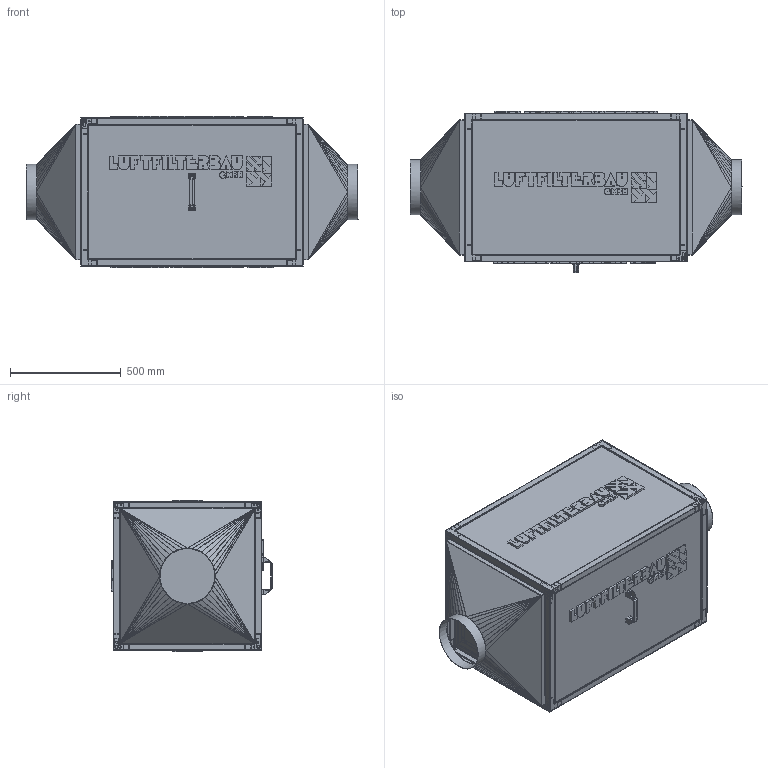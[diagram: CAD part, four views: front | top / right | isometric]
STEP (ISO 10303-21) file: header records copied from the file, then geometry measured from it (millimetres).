
FILE_DESCRIPTION(/* description */ (''),/* implementation_level */ '2;1');
FILE_NAME(/* name */ '\\hs-2000\Benutzer\00 Konstruktion\10_Inventor_Modelle\Inventor\HS-Vario Cat\72-VARIO-CAT-0000163\72-VARIO-CAT-0000163.stp',/* time_stamp */ '2018-08-07T11:37:56+02:00',/* author */ ('ap29'),/* organization */ (''),/* preprocessor_version */ 'ST-DEVELOPER v16.5',/* originating_system */ 'Autodesk Inventor 2017',/* authorisation */ '');
FILE_SCHEMA (('AUTOMOTIVE_DESIGN { 1 0 10303 214 3 1 1 }'));
Products named in the file (1): 72-VARIO-CAT-0000163
Bounding box: 1500.51 x 728 x 686 mm (x, y, z)
Volume: 90139082 mm3; surface area: 17338649.9 mm2
Topology: 2 solids, 39 shells, 8926 faces, 22350 edges, 13276 vertices
Faces by surface type: plane 5587, cylinder 2262, bspline 425, sphere 296, torus 256, cone 100
Full cylindrical faces by diameter (mm): 2 x128, 3 x1, 3.1 x2, 4 x32, 4.1 x33, 6 x8, 6.2 x2, 6.5 x1, 7 x56, 8 x31, 12 x8, 13 x2, 247 x2, 250 x2
Entity records: 284420 total; most frequent: CARTESIAN_POINT 67028, ORIENTED_EDGE 43192, DIRECTION 43047, EDGE_CURVE 21570, LINE 15307, VECTOR 15307, AXIS2_PLACEMENT_3D 13870, VERTEX_POINT 13042
